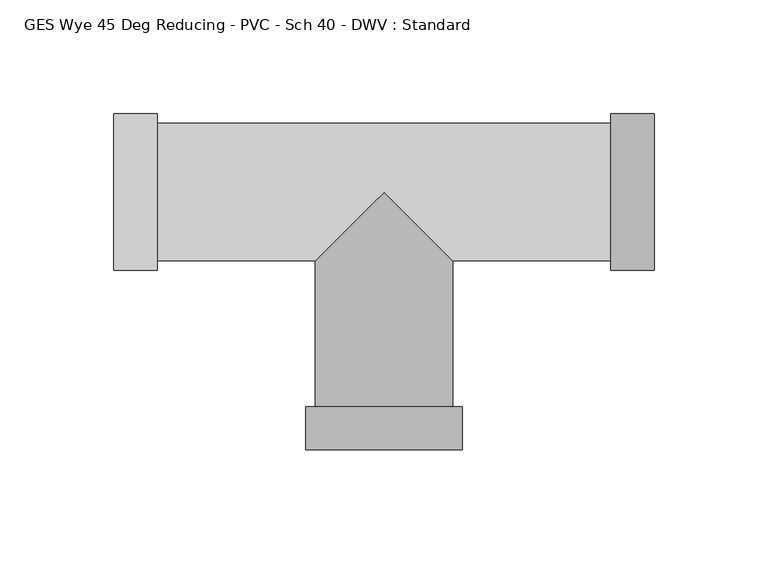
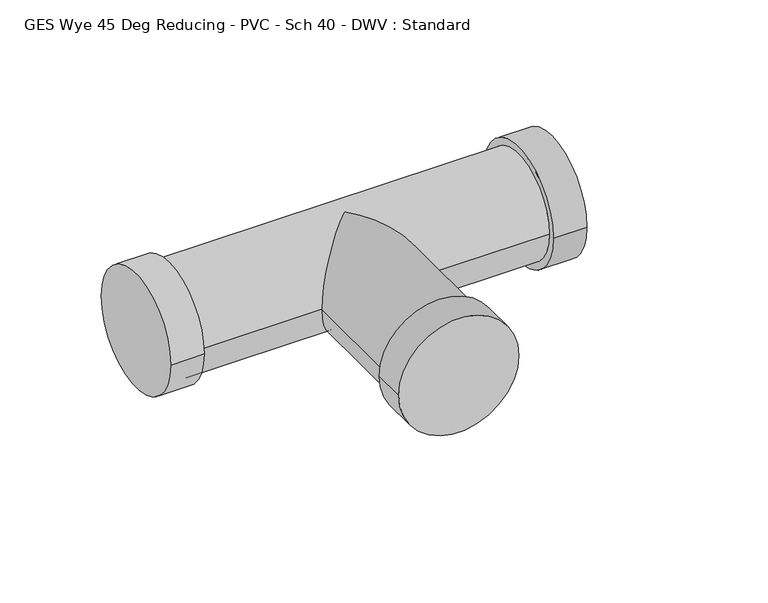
"""IFC4 building model written with IfcOpenShell, lengths in millimetres: pipe fitting geometry, GES Wye 45 Deg Reducing - PVC - Sch 40 - DWV : Standard."""

from ifc_helpers import new_model, si_unit, frame, origin, place, context, project, spatial, circle_curve, ellipse_curve, source, transform, mapped, element, save
from ifc_brep_helpers import plane_surface, cylinder_surface, advanced_brep


def ges_wye_45_deg_reducing_pvc_sch_40_dwv_standard_31e91cc2(model_context):
    return source(origin(), model_context, "Body", "AdvancedBrep", [
        advanced_brep(
        [(-99.5759375, 34.3154, 0.0), (-99.5759375, -34.3154, 0.0), (-99.5759375, 30.1625, 0.0), (-99.5759375, -30.1625, 0.0), (-118.6259375, 34.3154, 0.0), (-118.6259375, -34.3154, 0.0), (99.5759375, -34.3154, 0.0), (99.5759375, 34.3154, 0.0), (99.5759375, -30.1625, 0.0), (99.5759375, 30.1625, 0.0), (118.6259375, -34.3154, 0.0), (118.6259375, 34.3154, 0.0), (30.1625, -30.1625, 0.0), (0.0, 0.0, -30.1625), (-30.1625, -30.1625, 0.0), (0.0, 0.0, 30.1625), (-30.1625, -94.1982813, 0.0), (30.1625, -94.1982813, 0.0), (-34.3154, -94.1982813, 0.0), (34.3154, -94.1982813, 0.0), (-34.3154, -113.2482813, 0.0), (34.3154, -113.2482813, 0.0)],
        [
            (0, 1, circle_curve(frame((-99.5759375, 0.0, 0.0), z_axis=(1.0, 0.0, 0.0), x_axis=(0.0, -1.0, 0.0)), 34.3154)),
            (1, 0, circle_curve(frame((-99.5759375, 0.0, 0.0), z_axis=(1.0, 0.0, 0.0), x_axis=(0.0, -1.0, 0.0)), 34.3154)),
            (2, 3, circle_curve(frame((-99.5759375, 0.0, 0.0), z_axis=(-1.0, 0.0, 0.0), x_axis=(0.0, 0.0, -1.0)), 30.1625)),
            (3, 2, circle_curve(frame((-99.5759375, 0.0, 0.0), z_axis=(-1.0, 0.0, 0.0), x_axis=(0.0, 0.0, 1.0)), 30.1625)),
            (4, 5, circle_curve(frame((-118.6259375, 0.0, 0.0), z_axis=(-1.0, 0.0, 0.0), x_axis=(0.0, -1.0, 0.0)), 34.3154)),
            (5, 4, circle_curve(frame((-118.6259375, 0.0, 0.0), z_axis=(-1.0, 0.0, 0.0), x_axis=(0.0, -1.0, 0.0)), 34.3154)),
            (0, 4),
            (5, 1),
            (6, 7, circle_curve(frame((99.5759375, 0.0, 0.0), z_axis=(-1.0, 0.0, 0.0), x_axis=(0.0, 1.0, 0.0)), 34.3154)),
            (7, 6, circle_curve(frame((99.5759375, 0.0, 0.0), z_axis=(-1.0, 0.0, 0.0), x_axis=(0.0, 1.0, 0.0)), 34.3154)),
            (8, 9, circle_curve(frame((99.5759375, 0.0, 0.0), z_axis=(1.0, 0.0, 0.0), x_axis=(0.0, 0.0, -1.0)), 30.1625)),
            (9, 8, circle_curve(frame((99.5759375, 0.0, 0.0), z_axis=(1.0, 0.0, 0.0), x_axis=(0.0, 0.0, 1.0)), 30.1625)),
            (10, 11, circle_curve(frame((118.6259375, 0.0, 0.0), z_axis=(1.0, 0.0, 0.0), x_axis=(0.0, 1.0, 0.0)), 34.3154)),
            (11, 10, circle_curve(frame((118.6259375, 0.0, 0.0), z_axis=(1.0, 0.0, 0.0), x_axis=(0.0, 1.0, 0.0)), 34.3154)),
            (6, 10),
            (11, 7),
            (2, 9),
            (8, 12),
            (12, 13, ellipse_curve(frame((0.0, 0.0, 0.0), z_axis=(0.7071067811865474, 0.7071067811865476, 0.0), x_axis=(0.7071067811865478, -0.7071067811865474, 0.0)), 42.6562166, 30.1625)),
            (13, 14, ellipse_curve(frame((0.0, 0.0, 0.0), z_axis=(-0.7071067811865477, 0.7071067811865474, 0.0), x_axis=(0.7071067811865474, 0.7071067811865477, 0.0)), 42.6562166, 30.1625)),
            (14, 3),
            (14, 15, ellipse_curve(frame((0.0, 0.0, 0.0), z_axis=(-0.7071067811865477, 0.7071067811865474, 0.0), x_axis=(0.7071067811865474, 0.7071067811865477, 0.0)), 42.6562166, 30.1625)),
            (15, 12, ellipse_curve(frame((0.0, 0.0, 0.0), z_axis=(0.7071067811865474, 0.7071067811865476, 0.0), x_axis=(0.7071067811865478, -0.7071067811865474, 0.0)), 42.6562166, 30.1625)),
            (14, 16),
            (16, 17, circle_curve(frame((0.0, -94.1982813, 0.0), z_axis=(0.0, 1.0, 0.0), x_axis=(1.0, 0.0, 0.0)), 30.1625)),
            (17, 12),
            (17, 16, circle_curve(frame((0.0, -94.1982813, 0.0), z_axis=(0.0, 1.0, 0.0), x_axis=(1.0, 0.0, 0.0)), 30.1625)),
            (18, 19, circle_curve(frame((0.0, -94.1982813, 0.0), z_axis=(0.0, 1.0, 0.0), x_axis=(1.0, 0.0, 0.0)), 34.3154)),
            (19, 18, circle_curve(frame((0.0, -94.1982813, 0.0), z_axis=(0.0, 1.0, 0.0), x_axis=(1.0, 0.0, 0.0)), 34.3154)),
            (20, 21, circle_curve(frame((0.0, -113.2482813, 0.0), z_axis=(0.0, -1.0, 0.0), x_axis=(1.0, 0.0, 0.0)), 34.3154)),
            (21, 20, circle_curve(frame((0.0, -113.2482813, 0.0), z_axis=(0.0, -1.0, 0.0), x_axis=(1.0, 0.0, 0.0)), 34.3154)),
            (18, 20),
            (21, 19),
        ],
        [
            plane_surface(frame((-99.5759375, 0.0, 0.0), z_axis=(1.0, 0.0, 0.0), x_axis=(0.0, 0.0, 1.0))),
            plane_surface(frame((-118.6259375, 0.0, 0.0), z_axis=(-1.0, 0.0, 0.0), x_axis=(0.0, 0.0, 1.0))),
            cylinder_surface(frame((-99.5759375, 0.0, 0.0), z_axis=(1.0, 0.0, 0.0), x_axis=(0.0, -1.0, 0.0)), 34.3154),
            plane_surface(frame((99.5759375, 0.0, 0.0), z_axis=(-1.0, 0.0, 0.0), x_axis=(0.0, 0.0, 1.0))),
            plane_surface(frame((118.6259375, 0.0, 0.0), z_axis=(1.0, 0.0, 0.0), x_axis=(0.0, 0.0, 1.0))),
            cylinder_surface(frame((99.5759375, 0.0, 0.0), z_axis=(-1.0, 0.0, 0.0), x_axis=(0.0, 1.0, 0.0)), 34.3154),
            cylinder_surface(frame((-99.5759375, 0.0, 0.0), z_axis=(1.0, 0.0, 0.0), x_axis=(0.0, 0.0, -1.0)), 30.1625),
            cylinder_surface(frame((-99.5759375, 0.0, 0.0), z_axis=(1.0, 0.0, 0.0), x_axis=(0.0, 0.0, 1.0)), 30.1625),
            cylinder_surface(frame((0.0, 0.0, 0.0), z_axis=(0.0, 1.0, 0.0), x_axis=(1.0, 0.0, 0.0)), 30.1625),
            plane_surface(frame((0.0, -94.1982813, 0.0), z_axis=(0.0, 1.0, 0.0), x_axis=(0.0, 0.0, 1.0))),
            plane_surface(frame((0.0, -113.2482813, 0.0), z_axis=(0.0, -1.0, 0.0), x_axis=(0.0, 0.0, 1.0))),
            cylinder_surface(frame((0.0, -94.1982813, 0.0), z_axis=(0.0, 1.0, 0.0), x_axis=(1.0, 0.0, 0.0)), 34.3154),
        ],
        [
            (0, [[1, 2], [3, 4]]),
            (1, [[5, 6]]),
            (2, [[-1, 7, -6, 8]]),
            (2, [[-2, -8, -5, -7]]),
            (3, [[9, 10], [11, 12]]),
            (4, [[13, 14]]),
            (5, [[-9, 15, -14, 16]]),
            (5, [[-10, -16, -13, -15]]),
            (6, [[17, -11, 18, 19, 20, 21, -3]]),
            (7, [[-17, -4, -21, 22, 23, -18, -12]]),
            (8, [[24, 25, 26, -23, -22]]),
            (8, [[-24, -20, -19, -26, 27]]),
            (9, [[28, 29], [-25, -27]]),
            (10, [[30, 31]]),
            (11, [[-28, 32, -31, 33]]),
            (11, [[-29, -33, -30, -32]]),
        ],
    ),
    ])


if __name__ == "__main__":
    model = new_model("IFC4")
    model_context = context("Model", 3, world=origin())
    ifc_project = project(units=[si_unit("LENGTHUNIT", "METRE", prefix="MILLI")], contexts=[model_context])
    site = spatial("IfcSite", under=ifc_project)
    building = spatial("IfcBuilding", under=site)
    placement = place(None, origin())
    ges_wye_45_deg_reducing_pvc_sch_40_dwv_standard_shape = ges_wye_45_deg_reducing_pvc_sch_40_dwv_standard_31e91cc2(model_context)
    element("IfcPipeFitting", 1, ObjectType="GES Wye 45 Deg Reducing - PVC - Sch 40 - DWV : Standard", at=placement, inside=building, context=model_context, shape_type="MappedRepresentation", body=[
        mapped(ges_wye_45_deg_reducing_pvc_sch_40_dwv_standard_shape, transform((0.0, 0.0, 0.0), x_axis=(1.0, 0.0, 0.0), y_axis=(0.0, 1.0, 0.0), z_axis=(0.0, 0.0, 1.0))),
    ])
    save(model, "model.ifc")
